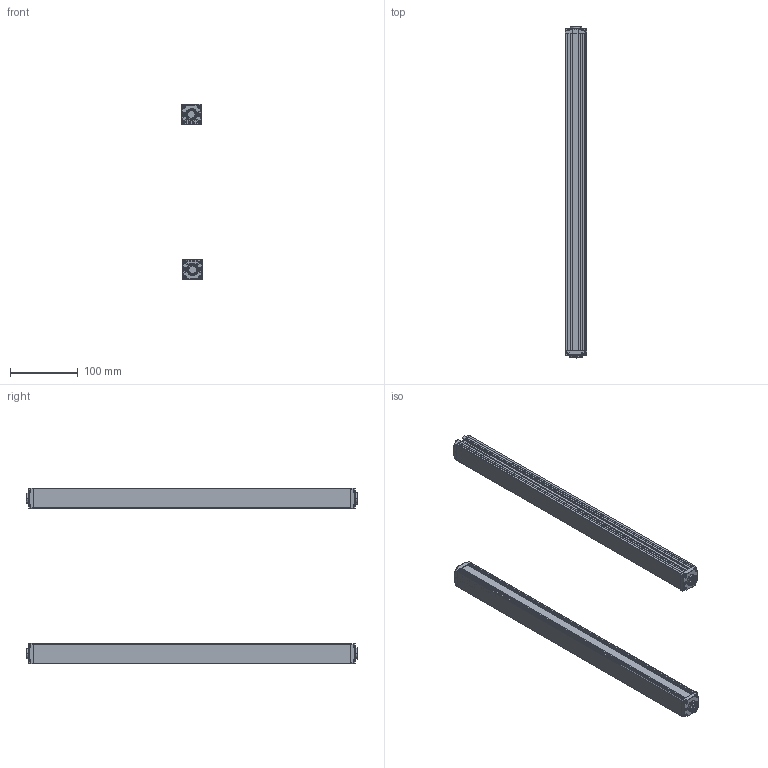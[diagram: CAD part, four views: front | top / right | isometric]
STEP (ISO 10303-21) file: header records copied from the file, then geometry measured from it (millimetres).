
FILE_DESCRIPTION (( 'STEP AP203' ), '1' );
FILE_NAME ('ZDA1240-470.STEP', '2022-08-30T07:41:25', ( 'Windows 蚚誧' ), ( 'Organization' ), 'SwSTEP 2.0', 'SolidWorks 2020', '' );
FILE_SCHEMA (( 'CONFIG_CONTROL_DESIGN' ));
Length unit declared in the file: millimetre
Products named in the file (5): 錨璃8 - 萵掛 (2); 錨璃10; ZDA1240-470; 錨璃1; 錨璃8
Assembly tree (8 placements, depth 2):
  ZDA1240-470
    錨璃1  x2
    錨璃8  x2
    錨璃8 - 萵掛 (2)  x2
    錨璃10  x2
Bounding box: 32.36 x 491.4 x 260.35 mm (x, y, z)
Volume: 304503.8 mm3; surface area: 323855.9 mm2
Topology: 8 solids, 8 shells, 1032 faces, 2690 edges, 1668 vertices
Faces by surface type: plane 464, cylinder 310, cone 120, bspline 58, torus 48, sphere 32
Entity records: 17901 total; most frequent: CARTESIAN_POINT 4731, ORIENTED_EDGE 2666, DIRECTION 2616, EDGE_CURVE 1333, AXIS2_PLACEMENT_3D 894, VERTEX_POINT 834, VECTOR 828, LINE 828
